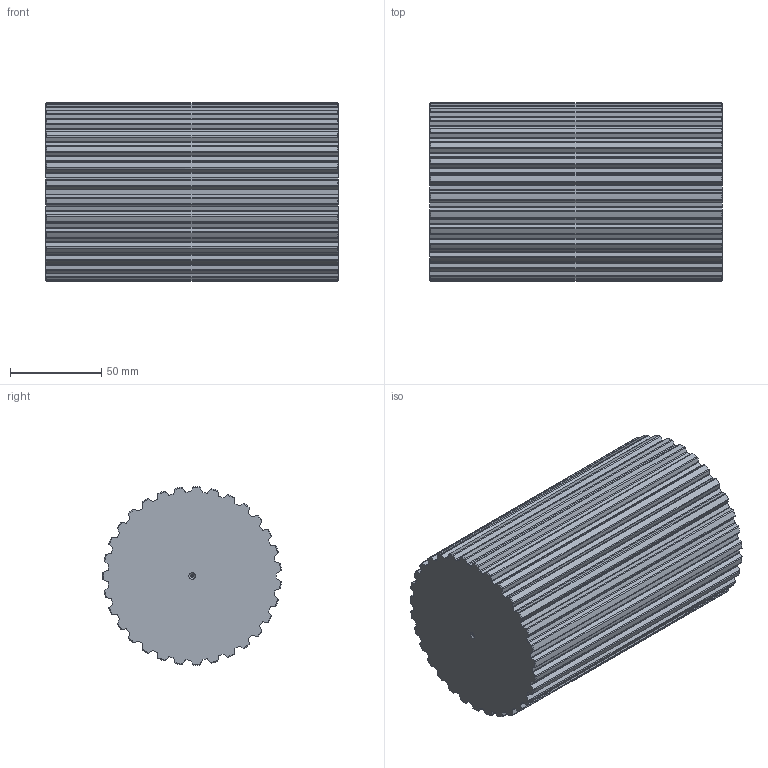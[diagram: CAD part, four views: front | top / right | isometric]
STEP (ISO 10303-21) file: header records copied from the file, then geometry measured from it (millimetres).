
FILE_DESCRIPTION(('STEP AP203'),'1');
FILE_NAME('barat_31.stp','2022-04-12T09:11:53',('TraceParts'),('TraceParts S.A.'),'Spatial InterOp 3D',' ',' ');
FILE_SCHEMA(('CONFIG_CONTROL_DESIGN'));
Length unit declared in the file: millimetre
Products named in the file (1): 1
Bounding box: 160 x 97.56 x 97.66 mm (x, y, z)
Volume: 1134968 mm3; surface area: 77329.4 mm2
Topology: 1 solids, 1 shells, 326 faces, 964 edges, 638 vertices
Faces by surface type: cylinder 190, cone 72, plane 64
Entity records: 11482 total; most frequent: CARTESIAN_POINT 3041, ORIENTED_EDGE 1920, DIRECTION 1692, EDGE_CURVE 960, AXIS2_PLACEMENT_3D 653, VERTEX_POINT 638, LINE 386, VECTOR 386
